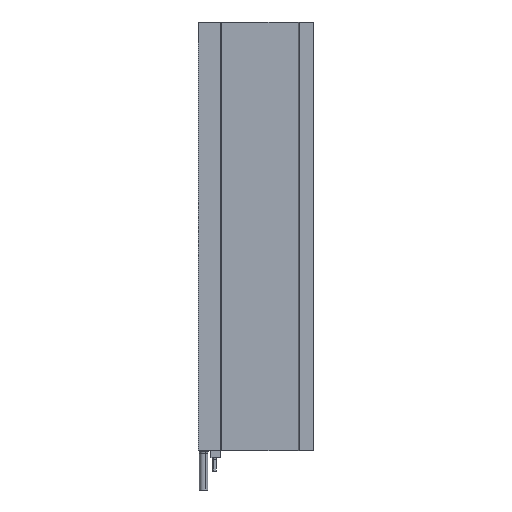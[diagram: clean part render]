
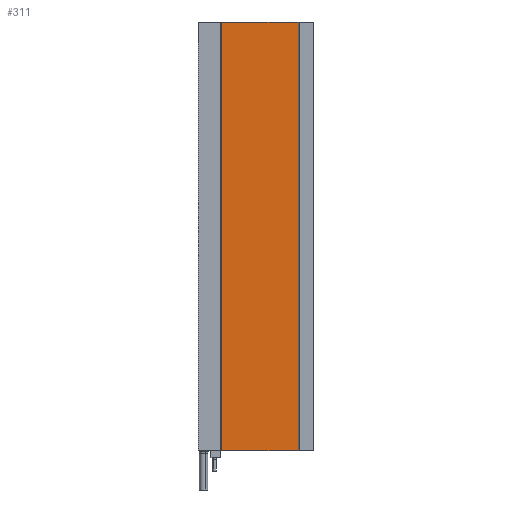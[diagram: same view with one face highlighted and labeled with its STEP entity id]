
A CAD part, left-side view. The second image highlights one B-rep face of the part: STEP entity #311.
In plain terms, the highlighted planar face has unit normal (-1, 0, 0).
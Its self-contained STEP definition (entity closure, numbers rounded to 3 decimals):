
#218 = LINE ( 'NONE', #6425, #4867 ) ;
#239 = CARTESIAN_POINT ( 'NONE',  ( 66.6, 231.204, 280.517 ) ) ;
#311 = ADVANCED_FACE ( 'NONE', ( #400 ), #6651, .F. ) ;
#400 = FACE_OUTER_BOUND ( 'NONE', #1440, .T. ) ;
#999 = EDGE_CURVE ( 'NONE', #1083, #2583, #218, .T. ) ;
#1067 = ORIENTED_EDGE ( 'NONE', *, *, #7968, .F. ) ;
#1083 = VERTEX_POINT ( 'NONE', #8378 ) ;
#1149 = LINE ( 'NONE', #3532, #5347 ) ;
#1243 = AXIS2_PLACEMENT_3D ( 'NONE', #9844, #9646, #5888 ) ;
#1440 = EDGE_LOOP ( 'NONE', ( #7534, #2644, #1067, #5121 ) ) ;
#1811 = VECTOR ( 'NONE', #9096, 1000. ) ;
#2494 = DIRECTION ( 'NONE',  ( 0., -1., 0. ) ) ;
#2583 = VERTEX_POINT ( 'NONE', #239 ) ;
#2644 = ORIENTED_EDGE ( 'NONE', *, *, #999, .F. ) ;
#2852 = EDGE_CURVE ( 'NONE', #8131, #2583, #7627, .T. ) ;
#3149 = VECTOR ( 'NONE', #9252, 1000. ) ;
#3532 = CARTESIAN_POINT ( 'NONE',  ( 66.6, 298.704, 665.517 ) ) ;
#3961 = EDGE_CURVE ( 'NONE', #8131, #7208, #5371, .T. ) ;
#4413 = CARTESIAN_POINT ( 'NONE',  ( 66.6, 300.204, 665.517 ) ) ;
#4867 = VECTOR ( 'NONE', #5550, 1000. ) ;
#5121 = ORIENTED_EDGE ( 'NONE', *, *, #3961, .F. ) ;
#5347 = VECTOR ( 'NONE', #2494, 1000. ) ;
#5371 = LINE ( 'NONE', #8564, #3149 ) ;
#5550 = DIRECTION ( 'NONE',  ( 0., 0., -1. ) ) ;
#5888 = DIRECTION ( 'NONE',  ( 0., 0., -1. ) ) ;
#6094 = CARTESIAN_POINT ( 'NONE',  ( 66.6, 298.704, 280.517 ) ) ;
#6425 = CARTESIAN_POINT ( 'NONE',  ( 66.6, 231.204, 665.517 ) ) ;
#6651 = PLANE ( 'NONE',  #1243 ) ;
#7208 = VERTEX_POINT ( 'NONE', #4413 ) ;
#7534 = ORIENTED_EDGE ( 'NONE', *, *, #2852, .T. ) ;
#7627 = LINE ( 'NONE', #6094, #1811 ) ;
#7968 = EDGE_CURVE ( 'NONE', #7208, #1083, #1149, .T. ) ;
#8131 = VERTEX_POINT ( 'NONE', #9493 ) ;
#8378 = CARTESIAN_POINT ( 'NONE',  ( 66.6, 231.204, 665.517 ) ) ;
#8564 = CARTESIAN_POINT ( 'NONE',  ( 66.6, 300.204, 280.517 ) ) ;
#9096 = DIRECTION ( 'NONE',  ( 0., -1., 0. ) ) ;
#9252 = DIRECTION ( 'NONE',  ( 0., 0., 1. ) ) ;
#9493 = CARTESIAN_POINT ( 'NONE',  ( 66.6, 300.204, 280.517 ) ) ;
#9646 = DIRECTION ( 'NONE',  ( 1., 0., 0. ) ) ;
#9844 = CARTESIAN_POINT ( 'NONE',  ( 66.6, 298.704, 665.517 ) ) ;
